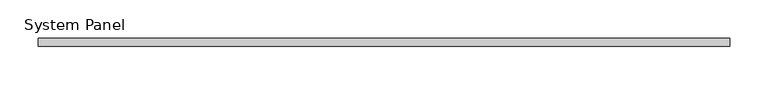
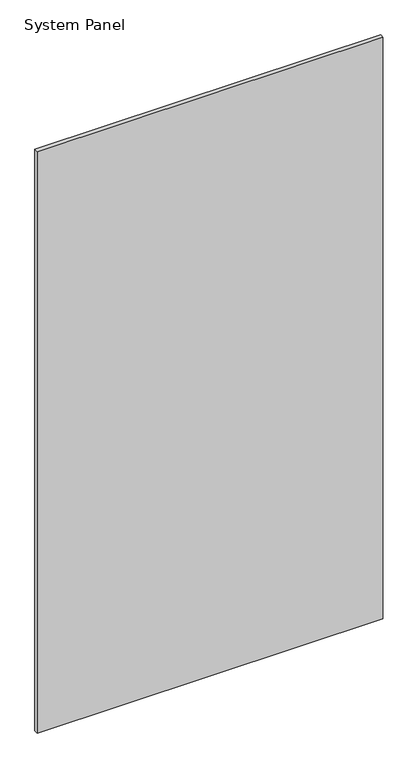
"""IFC4 building model written with IfcOpenShell, lengths in millimetres: plate geometry, System Panel : стекло_смещение_0."""

from ifc_helpers import new_model, si_unit, origin, origin_with_axes, place, context, project, spatial, polyline, outline, extrude, source, transform, mapped, element, save


def system_panel_8cdd8ac6(model_context):
    return source(origin(), model_context, "Body", "SweptSolid", [
        extrude(outline(polyline([(450.0, -5.0), (-450.0, -5.0), (-450.0, 5.0), (450.0, 5.0), (450.0, -5.0)])), origin_with_axes(), (0.0, 0.0, 1.0), 1600.0),
    ])


if __name__ == "__main__":
    model = new_model("IFC4")
    model_context = context("Model", 3, world=origin())
    ifc_project = project(units=[si_unit("LENGTHUNIT", "METRE", prefix="MILLI")], contexts=[model_context])
    site = spatial("IfcSite", under=ifc_project)
    building = spatial("IfcBuilding", under=site)
    placement = place(None, origin())
    system_panel_shape = system_panel_8cdd8ac6(model_context)
    element("IfcPlate", 1, ObjectType="System Panel : стекло_смещение_0", at=placement, inside=building, context=model_context, shape_type="MappedRepresentation", body=[
        mapped(system_panel_shape, transform((0.0, 0.0, 0.0), x_axis=(1.0, 0.0, 0.0), y_axis=(0.0, 1.0, 0.0), z_axis=(0.0, 0.0, 1.0))),
    ])
    save(model, "model.ifc")
